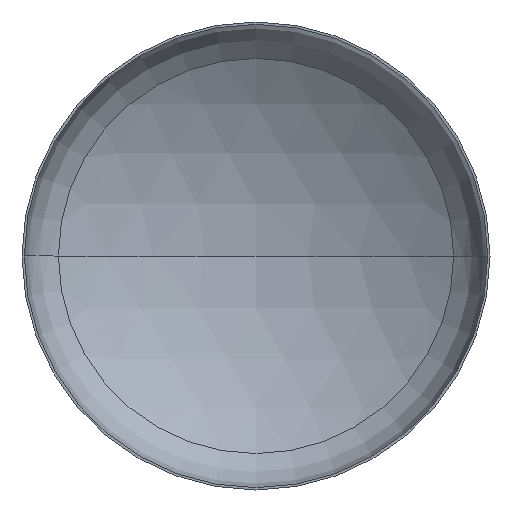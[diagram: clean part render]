
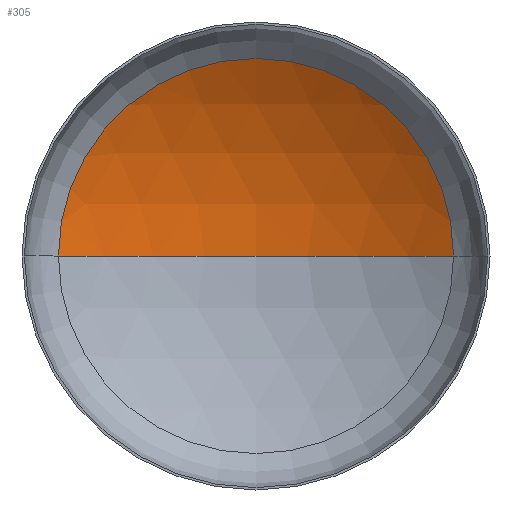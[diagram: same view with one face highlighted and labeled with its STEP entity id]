
A CAD part, front view. The second image highlights one B-rep face of the part: STEP entity #305.
In plain terms, the highlighted spherical face has radius 2880 mm.
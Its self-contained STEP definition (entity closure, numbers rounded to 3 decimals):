
#1 = EDGE_LOOP ( 'NONE', ( #59, #37, #110 ) ) ;
#3 = DIRECTION ( 'NONE',  ( 0., 0., -1. ) ) ;
#4 = AXIS2_PLACEMENT_3D ( 'NONE', #195, #401, #175 ) ;
#8 = DIRECTION ( 'NONE',  ( 0., -1., 0. ) ) ;
#15 = VERTEX_POINT ( 'NONE', #317 ) ;
#28 = CARTESIAN_POINT ( 'NONE',  ( 0., 526.42, 0. ) ) ;
#36 = AXIS2_PLACEMENT_3D ( 'NONE', #373, #202, #219 ) ;
#37 = ORIENTED_EDGE ( 'NONE', *, *, #106, .T. ) ;
#39 = AXIS2_PLACEMENT_3D ( 'NONE', #272, #3, #278 ) ;
#40 = AXIS2_PLACEMENT_3D ( 'NONE', #28, #8, #274 ) ;
#54 = VERTEX_POINT ( 'NONE', #311 ) ;
#57 = VERTEX_POINT ( 'NONE', #316 ) ;
#59 = ORIENTED_EDGE ( 'NONE', *, *, #108, .F. ) ;
#104 = EDGE_CURVE ( 'NONE', #57, #15, #172, .T. ) ;
#106 = EDGE_CURVE ( 'NONE', #54, #57, #410, .T. ) ;
#108 = EDGE_CURVE ( 'NONE', #54, #15, #236, .T. ) ;
#110 = ORIENTED_EDGE ( 'NONE', *, *, #104, .T. ) ;
#172 = CIRCLE ( 'NONE', #40, 1519.897 ) ;
#175 = DIRECTION ( 'NONE',  ( -1., 0., 0. ) ) ;
#195 = CARTESIAN_POINT ( 'NONE',  ( 0., -1919.866, 0. ) ) ;
#202 = DIRECTION ( 'NONE',  ( 0., 0., 1. ) ) ;
#204 = FACE_OUTER_BOUND ( 'NONE', #1, .T. ) ;
#219 = DIRECTION ( 'NONE',  ( 1., 0., 0. ) ) ;
#236 = CIRCLE ( 'NONE', #36, 2880. ) ;
#272 = CARTESIAN_POINT ( 'NONE',  ( 0., -1919.866, 0. ) ) ;
#274 = DIRECTION ( 'NONE',  ( 1., 0., 0. ) ) ;
#278 = DIRECTION ( 'NONE',  ( -1., 0., 0. ) ) ;
#305 = ADVANCED_FACE ( 'NONE', ( #204 ), #394, .F. ) ;
#311 = CARTESIAN_POINT ( 'NONE',  ( 0., 960.134, 0. ) ) ;
#316 = CARTESIAN_POINT ( 'NONE',  ( 1519.897, 526.42, 0. ) ) ;
#317 = CARTESIAN_POINT ( 'NONE',  ( -1519.897, 526.42, 0. ) ) ;
#373 = CARTESIAN_POINT ( 'NONE',  ( 0., -1919.866, 0. ) ) ;
#394 = SPHERICAL_SURFACE ( 'NONE', #4, 2880. ) ;
#401 = DIRECTION ( 'NONE',  ( 0., 0., -1. ) ) ;
#410 = CIRCLE ( 'NONE', #39, 2880. ) ;
